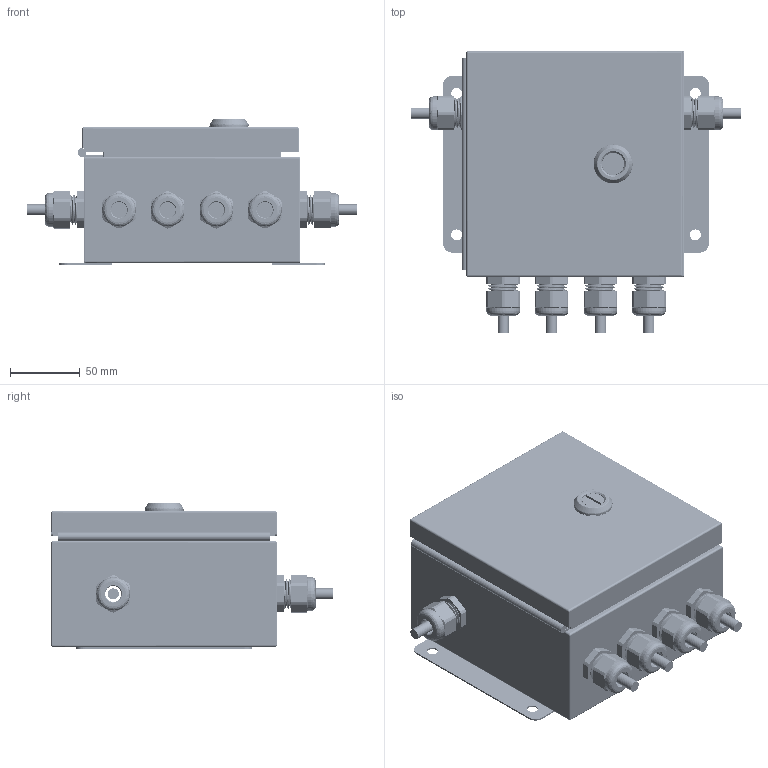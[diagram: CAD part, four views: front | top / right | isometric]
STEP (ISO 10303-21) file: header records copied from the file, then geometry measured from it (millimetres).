
FILE_DESCRIPTION (( 'STEP AP203' ), '1' );
FILE_NAME ('HI6020JB-SS2-6.STEP', '2023-09-28T20:18:18', ( '' ), ( '' ), 'SwSTEP 2.0', 'SolidWorks 2020', '' );
FILE_SCHEMA (( 'CONFIG_CONTROL_DESIGN' ));
Length unit declared in the file: inch
Products named in the file (34): 0535-0573-XX-0; 0508-0929-06-0_ENCLOSURE CASE; HI6020XX-SSY Model-Serial Label; QTL-HOUSING-ASSY_97H9230-26300_1; 2140-0137-09-0; Southco-E5-6-0024-UU1_E5_Phillips_Slot_Hex_Screw_clf_STD-QTL-SCREW_1; 0529-0024-01-0; hex nut_ai_97H1112-27ZA3_1; 2814-0095-0; Southco-E5-6-0024-UU1_E5_Plastic_Housing_clf_STD-QTL-HOUSING_1; 0534-0573-01-0; 0508-0929-XX-002_ENCLOSURE DOOR; Southco-E5-6-0024-UU1_O-Ring_clf_97H9930-13VIT_1; flush stud_pmi_97H7301-26188_1; 2140-0136-07-0; 1658A6_Piano Hinge with Holes_KEEP-A_1; 2817-0182_90400A219; HI6020JB-SS2-6; machine screw nut hex_ai_97H1401-26188_1; 97H9231-27ZA3_12C6_1; 1658A6_Piano Hinge with Holes_KEEP-B_1; flush stud_pmi_97H7202-26188_1; 6007-0097-0; Southco-E5-6-0024-UU1_Nut_clf_STD-QTL-NUT_1; 0530-0710-01-0; hardy-flange_MFW-HOL-00409_1; 4617-0010-0; Southco-E5-6-0024-UU1_E5_Plastic_Driver(Slotted)_clf_STD-QTL-SLOTTED-INSERT_1; 0508-0929-XX-006_ENCLOSURE DOOR GASKET; BRKY-00409_BRKT-00409_1; Southco-E5-6-0024-UU1_E5_Sealing_Washer(Compressed)_clf_1; 0508-0929-06-0_Default_DOOR CLOSED; blind standoff_pmi_97H5125-26300_1; 2140-0137-07-0
Assembly tree (69 placements, depth 4):
  HI6020JB-SS2-6
    0535-0573-XX-0
      0534-0573-01-0
      4617-0010-0  x4
      2140-0136-07-0  x4
      2140-0137-07-0  x4
      2140-0137-09-0  x2
    2817-0182_90400A219  x4
    HI6020XX-SSY Model-Serial Label
    0530-0710-01-0
    6007-0097-0  x6
    2814-0095-0  x6
    0529-0024-01-0  x6
    0508-0929-06-0_Default_DOOR CLOSED
      0508-0929-06-0_ENCLOSURE CASE
      flush stud_pmi_97H7202-26188_1  x2
      flush stud_pmi_97H7301-26188_1  x2
      hardy-flange_MFW-HOL-00409_1  x2
      BRKY-00409_BRKT-00409_1
      blind standoff_pmi_97H5125-26300_1  x4
      machine screw nut hex_ai_97H1401-26188_1  x2
      hex nut_ai_97H1112-27ZA3_1  x2
      1658A6_Piano Hinge with Holes_KEEP-A_1
      1658A6_Piano Hinge with Holes_KEEP-B_1
      0508-0929-XX-002_ENCLOSURE DOOR
      97H9231-27ZA3_12C6_1
      QTL-HOUSING-ASSY_97H9230-26300_1
        Southco-E5-6-0024-UU1_E5_Plastic_Driver(Slotted)_clf_STD-QTL-SLOTTED-INSERT_1
        Southco-E5-6-0024-UU1_E5_Sealing_Washer(Compressed)_clf_1
        Southco-E5-6-0024-UU1_Nut_clf_STD-QTL-NUT_1
        Southco-E5-6-0024-UU1_E5_Plastic_Housing_clf_STD-QTL-HOUSING_1
        Southco-E5-6-0024-UU1_E5_Phillips_Slot_Hex_Screw_clf_STD-QTL-SCREW_1
        Southco-E5-6-0024-UU1_O-Ring_clf_97H9930-13VIT_1
      0508-0929-XX-006_ENCLOSURE DOOR GASKET
Bounding box: 236.85 x 203.09 x 104.41 mm (x, y, z)
Volume: 362210.1 mm3; surface area: 467666.5 mm2
Topology: 605 solids, 609 shells, 16531 faces, 42729 edges, 27954 vertices
Faces by surface type: plane 9388, bspline 3644, cylinder 2808, cone 495, torus 124, sphere 72
Entity records: 462798 total; most frequent: CARTESIAN_POINT 208021, ORIENTED_EDGE 57892, DIRECTION 39204, EDGE_CURVE 28946, VERTEX_POINT 19074, LINE 18646, VECTOR 18646, EDGE_LOOP 11958
